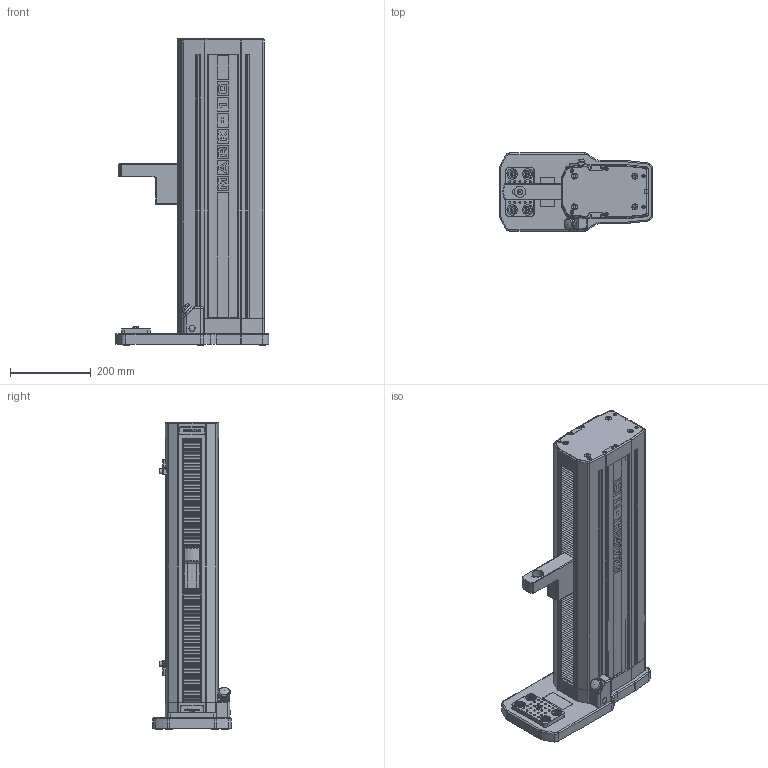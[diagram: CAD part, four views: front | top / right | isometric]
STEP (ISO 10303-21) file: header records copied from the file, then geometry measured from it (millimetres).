
FILE_DESCRIPTION(/* description */ (''),/* implementation_level */ '2;1');
FILE_NAME(/* name */ 'F:\CAD files\Itr\3D MARKETING MODELS\MOTORIZED TEST STANDS\FX05\F105, F305, F505 IM\F105, F305, F505 IM.stp',/* time_stamp */ '2021-02-05T15:41:47-05:00',/* author */ ('dsollitt'),/* organization */ (''),/* preprocessor_version */ 'ST-DEVELOPER v18.1',/* originating_system */ 'AutoCAD Mechanical',/* authorisation */ '');
FILE_SCHEMA (('AUTOMOTIVE_DESIGN { 1 0 10303 214 3 1 1 }'));
Products named in the file (1): Product
Bounding box: 379.73 x 193.04 x 758.05 mm (x, y, z)
Volume: 20753643.5 mm3; surface area: 1298120 mm2
Topology: 14 solids, 18 shells, 9207 faces, 25457 edges, 16876 vertices
Faces by surface type: plane 8051, cylinder 839, cone 224, torus 52, bspline 33, sphere 8
Full cylindrical faces by diameter (mm): 1.015 x2, 1.55 x4, 1.797 x2, 2 x4, 2.13 x1, 2.474 x5, 3.328 x1, 3.505 x5, 4.166 x4, 4.191 x4, 4.826 x25, 5.563 x2, 6 x2, 6.147 x1, 6.35 x4, 6.858 x2, 7.798 x6, 7.925 x1, 7.937 x3, 7.938 x8, 9.525 x2, 9.8 x1, 10.439 x4, 11.906 x6, 12.1 x1, 12.7 x2, 12.8 x1, 13.1 x1, 13.106 x1, 13.462 x6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
Entity records: 292897 total; most frequent: CARTESIAN_POINT 55931, ORIENTED_EDGE 50904, DIRECTION 45902, EDGE_CURVE 25452, LINE 22856, VECTOR 22856, VERTEX_POINT 16876, AXIS2_PLACEMENT_3D 11523
